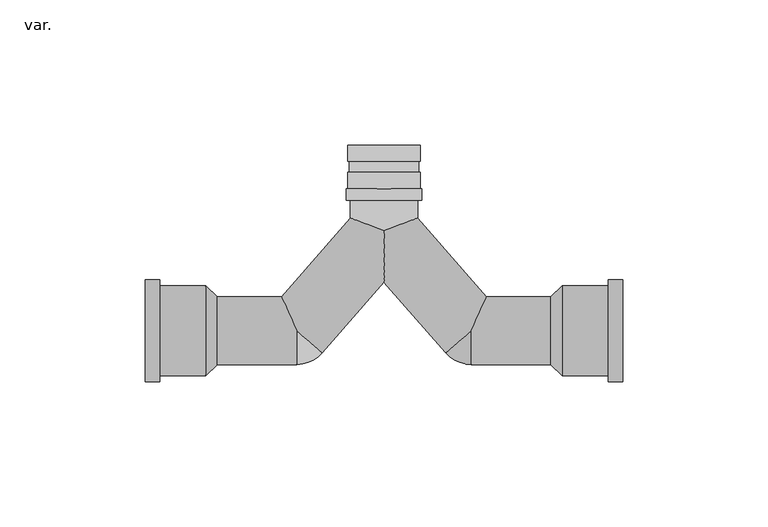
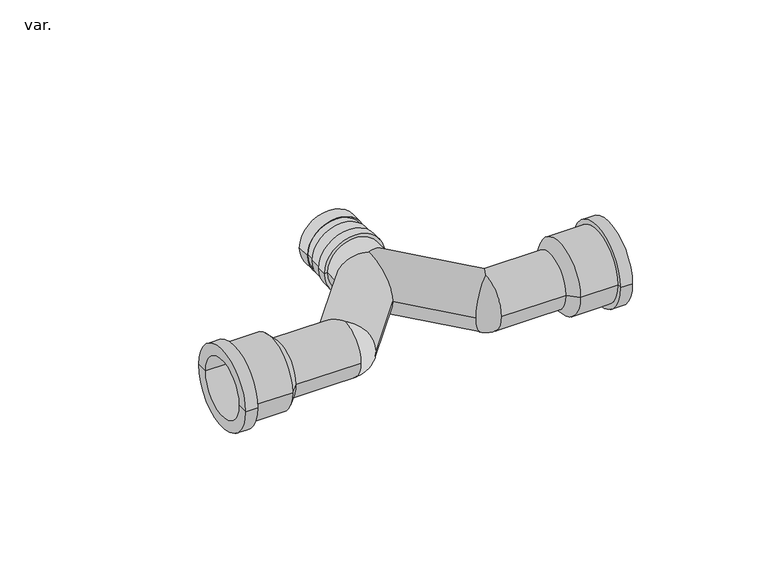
"""IFC4 building model written with IfcOpenShell, lengths in millimetres: pipe fitting geometry, AmancoWavin_ConexõesdeTubos_PEXTêMisturadorMetálico : var.."""

from ifc_helpers import new_model, si_unit, point, frame, origin, place, context, project, spatial, polyline, circle_curve, ellipse_curve, trimmed, source, transform, mapped, element, save
from ifc_brep_helpers import plane_surface, cylinder_surface, revolved_surface, advanced_brep


def var_4e1bb249(model_context):
    return source(origin(), model_context, "Body", "AdvancedBrep", [
        advanced_brep(
        [(12.5, 49.0, 0.0), (-12.5, 49.0, 0.0), (-12.5, 54.625, 0.0), (12.5, 54.625, 0.0), (10.175, 49.0, 0.0), (-10.175, 49.0, 0.0), (10.175, 64.0, 0.0), (-10.175, 64.0, 0.0), (12.5, 64.0, 0.0), (-12.5, 64.0, 0.0), (12.5, 58.375, 0.0), (-12.5, 58.375, 0.0), (-12.0, 54.625, 0.0), (12.0, 54.625, 0.0), (-12.0, 58.375, 0.0), (12.0, 58.375, 0.0)],
        [
            (0, 1, circle_curve(frame((0.0, 49.0, 0.0), z_axis=(0.0, 1.0, 0.0), x_axis=(-1.0, 0.0, 0.0)), 12.5)),
            (1, 2),
            (2, 3, circle_curve(frame((0.0, 54.625, 0.0), z_axis=(0.0, -1.0, 0.0), x_axis=(-1.0, 0.0, 0.0)), 12.5)),
            (3, 0),
            (1, 0, circle_curve(frame((0.0, 49.0, 0.0), z_axis=(0.0, 1.0, 0.0), x_axis=(-1.0, 0.0, 0.0)), 12.5)),
            (3, 2, circle_curve(frame((0.0, 54.625, 0.0), z_axis=(0.0, -1.0, 0.0), x_axis=(-1.0, 0.0, 0.0)), 12.5)),
            (0, 4),
            (4, 5, circle_curve(frame((0.0, 49.0, 0.0), z_axis=(0.0, 1.0, 0.0), x_axis=(-1.0, 0.0, 0.0)), 10.175)),
            (5, 1),
            (5, 4, circle_curve(frame((0.0, 49.0, 0.0), z_axis=(0.0, 1.0, 0.0), x_axis=(-1.0, 0.0, 0.0)), 10.175)),
            (4, 6),
            (6, 7, circle_curve(frame((0.0, 64.0, 0.0), z_axis=(0.0, 1.0, 0.0), x_axis=(-1.0, 0.0, 0.0)), 10.175)),
            (7, 5),
            (7, 6, circle_curve(frame((0.0, 64.0, 0.0), z_axis=(0.0, 1.0, 0.0), x_axis=(-1.0, 0.0, 0.0)), 10.175)),
            (6, 8),
            (8, 9, circle_curve(frame((0.0, 64.0, 0.0), z_axis=(0.0, 1.0, 0.0), x_axis=(-1.0, 0.0, 0.0)), 12.5)),
            (9, 7),
            (9, 8, circle_curve(frame((0.0, 64.0, 0.0), z_axis=(0.0, 1.0, 0.0), x_axis=(-1.0, 0.0, 0.0)), 12.5)),
            (8, 10),
            (10, 11, circle_curve(frame((0.0, 58.375, 0.0), z_axis=(0.0, 1.0, 0.0), x_axis=(-1.0, 0.0, 0.0)), 12.5)),
            (11, 9),
            (11, 10, circle_curve(frame((0.0, 58.375, 0.0), z_axis=(0.0, 1.0, 0.0), x_axis=(-1.0, 0.0, 0.0)), 12.5)),
            (12, 13, circle_curve(frame((0.0, 54.625, 0.0), z_axis=(0.0, -1.0, 0.0), x_axis=(-1.0, 0.0, 0.0)), 12.0)),
            (13, 3),
            (2, 12),
            (13, 12, circle_curve(frame((0.0, 54.625, 0.0), z_axis=(0.0, -1.0, 0.0), x_axis=(-1.0, 0.0, 0.0)), 12.0)),
            (12, 14),
            (14, 15, circle_curve(frame((0.0, 58.375, 0.0), z_axis=(0.0, -1.0, 0.0), x_axis=(-1.0, 0.0, 0.0)), 12.0)),
            (15, 13),
            (15, 14, circle_curve(frame((0.0, 58.375, 0.0), z_axis=(0.0, -1.0, 0.0), x_axis=(-1.0, 0.0, 0.0)), 12.0)),
            (14, 11),
            (10, 15),
        ],
        [
            cylinder_surface(frame((0.0, -1945.1007619, 0.0), z_axis=(0.0, -1.0, 0.0), x_axis=(-1.0, 0.0, 0.0)), 12.5),
            plane_surface(frame((0.0, 49.0, 0.0), z_axis=(0.0, -1.0, 0.0), x_axis=(-1.0, 0.0, 0.0))),
            revolved_surface(polyline([(-10.175, 49.0, 0.0), (-10.175, 64.0, 0.0)]), (0.0, -1945.1007619, 0.0), (0.0, -1.0, 0.0)),
            plane_surface(frame((0.0, 64.0, 0.0), z_axis=(0.0, 1.0, 0.0), x_axis=(-1.0, 0.0, 0.0))),
            plane_surface(frame((0.0, 54.625, 0.0), z_axis=(0.0, 1.0, 0.0), x_axis=(-1.0, 0.0, 0.0))),
            cylinder_surface(frame((0.0, -1945.1007619, 0.0), z_axis=(0.0, -1.0, 0.0), x_axis=(-1.0, 0.0, 0.0)), 12.0),
            plane_surface(frame((0.0, 58.375, 0.0), z_axis=(0.0, -1.0, 0.0), x_axis=(-1.0, 0.0, 0.0))),
        ],
        [
            (0, [[1, 2, 3, 4]]),
            (0, [[5, -4, 6, -2]]),
            (1, [[-1, 7, 8, 9]]),
            (1, [[-5, -9, 10, -7]]),
            (2, [[-8, 11, 12, 13]]),
            (2, [[-10, -13, 14, -11]]),
            (3, [[-12, 15, 16, 17]]),
            (3, [[-14, -17, 18, -15]]),
            (0, [[-16, 19, 20, 21]]),
            (0, [[-18, -21, 22, -19]]),
            (4, [[23, 24, -3, 25]]),
            (4, [[26, -25, -6, -24]]),
            (5, [[-23, 27, 28, 29]]),
            (5, [[-26, -29, 30, -27]]),
            (6, [[-28, 31, -20, 32]]),
            (6, [[-30, -32, -22, -31]]),
        ],
    ),
        advanced_brep(
        [(-77.35, -15.5, 0.0), (-77.35, 15.5, 0.0), (-61.35, 15.5, 0.0), (-61.35, -15.5, 0.0), (-77.35, -17.5, 0.0), (-77.35, 17.5, 0.0), (-82.35, -17.5, 0.0), (-82.35, 17.5, 0.0), (-82.35, -12.7, 0.0), (-82.35, 12.7, 0.0), (-63.35, -12.7, 0.0), (-63.35, 12.7, 0.0), (-63.35, 0.0, 0.0), (-57.5, -11.65, 0.0), (-57.5, 11.65, 0.0), (-35.3092109, 11.65, 0.0), (-30.0, 0.0, -11.65), (-30.0, -11.65, 0.0), (-30.0, 0.0, 11.65), (57.5, -11.65, 0.0), (57.5, 11.65, 0.0), (61.35, 15.5, 0.0), (61.35, -15.5, 0.0), (30.0, -11.65, 0.0), (30.0, -10.0224566, -5.9390962), (30.0, -5.8559233, -10.0712791), (30.0, 0.0, -11.65), (35.3092109, 11.65, 0.0), (30.0, 0.0, 11.65), (30.0, -5.8559233, 10.0712791), (30.0, -10.0224566, 5.9390962), (63.35, -12.7, 0.0), (63.35, 12.7, 0.0), (63.35, 0.0, 0.0), (82.35, -12.7, 0.0), (82.35, 12.7, 0.0), (82.35, -17.5, 0.0), (82.35, 17.5, 0.0), (77.35, -17.5, 0.0), (77.35, 17.5, 0.0), (77.35, -15.5, 0.0), (77.35, 15.5, 0.0), (-11.65, 38.8668087, 0.0), (0.0, 34.5110522, -11.65), (0.0, 16.7535038, 0.0), (-21.2076334, -7.6430877, 0.0), (-23.7828579, -5.4044791, -8.237794), (-23.7828579, -5.4044791, 8.237794), (0.0, 34.5110522, 11.65), (21.2076334, -7.6430877, 0.0), (11.65, 38.8668087, 0.0), (13.0, 45.0, 0.0), (-13.0, 45.0, 0.0), (-13.0, 49.0, 0.0), (13.0, 49.0, 0.0), (11.65, 45.0, 0.0), (-11.65, 45.0, 0.0), (0.0, 49.0, 0.0)],
        [
            (0, 1, circle_curve(frame((-77.35, 0.0, 0.0), z_axis=(1.0, 0.0, 0.0), x_axis=(0.0, 1.0, 0.0)), 15.5)),
            (1, 2),
            (2, 3, circle_curve(frame((-61.35, 0.0, 0.0), z_axis=(-1.0, 0.0, 0.0), x_axis=(0.0, 1.0, 0.0)), 15.5)),
            (3, 0),
            (1, 0, circle_curve(frame((-77.35, 0.0, 0.0), z_axis=(1.0, 0.0, 0.0), x_axis=(0.0, 1.0, 0.0)), 15.5)),
            (3, 2, circle_curve(frame((-61.35, 0.0, 0.0), z_axis=(-1.0, 0.0, 0.0), x_axis=(0.0, 1.0, 0.0)), 15.5)),
            (0, 4),
            (4, 5, circle_curve(frame((-77.35, 0.0, 0.0), z_axis=(1.0, 0.0, 0.0), x_axis=(0.0, 1.0, 0.0)), 17.5)),
            (5, 1),
            (5, 4, circle_curve(frame((-77.35, 0.0, 0.0), z_axis=(1.0, 0.0, 0.0), x_axis=(0.0, 1.0, 0.0)), 17.5)),
            (4, 6),
            (6, 7, circle_curve(frame((-82.35, 0.0, 0.0), z_axis=(1.0, 0.0, 0.0), x_axis=(0.0, 1.0, 0.0)), 17.5)),
            (7, 5),
            (7, 6, circle_curve(frame((-82.35, 0.0, 0.0), z_axis=(1.0, 0.0, 0.0), x_axis=(0.0, 1.0, 0.0)), 17.5)),
            (6, 8),
            (8, 9, circle_curve(frame((-82.35, 0.0, 0.0), z_axis=(1.0, 0.0, 0.0), x_axis=(0.0, 1.0, 0.0)), 12.7)),
            (9, 7),
            (9, 8, circle_curve(frame((-82.35, 0.0, 0.0), z_axis=(1.0, 0.0, 0.0), x_axis=(0.0, 1.0, 0.0)), 12.7)),
            (8, 10),
            (10, 11, circle_curve(frame((-63.35, 0.0, 0.0), z_axis=(1.0, 0.0, 0.0), x_axis=(0.0, 1.0, 0.0)), 12.7)),
            (11, 9),
            (11, 10, circle_curve(frame((-63.35, 0.0, 0.0), z_axis=(1.0, 0.0, 0.0), x_axis=(0.0, 1.0, 0.0)), 12.7)),
            (10, 12),
            (12, 11),
            (13, 14, circle_curve(frame((-57.5, 0.0, 0.0), z_axis=(1.0, 0.0, 0.0), x_axis=(0.0, 1.0, 0.0)), 11.65)),
            (14, 15),
            (15, 16, ellipse_curve(frame((-30.0, 0.0, 0.0), z_axis=(-0.9099612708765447, -0.4146932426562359, 0.0), x_axis=(-0.4146932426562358, 0.9099612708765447, 0.0)), 12.8027427, 11.65)),
            (16, 17, circle_curve(frame((-30.0, 0.0, 0.0), z_axis=(-1.0, 0.0, 0.0), x_axis=(0.0, 1.0, 0.0)), 11.65)),
            (17, 13),
            (17, 18, circle_curve(frame((-30.0, 0.0, 0.0), z_axis=(-1.0, 0.0, 0.0), x_axis=(0.0, 1.0, 0.0)), 11.65)),
            (18, 15, ellipse_curve(frame((-30.0, 0.0, 0.0), z_axis=(-0.9099612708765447, -0.4146932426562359, 0.0), x_axis=(-0.4146932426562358, 0.9099612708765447, 0.0)), 12.8027427, 11.65)),
            (14, 13, circle_curve(frame((-57.5, 0.0, 0.0), z_axis=(1.0, 0.0, 0.0), x_axis=(0.0, 1.0, 0.0)), 11.65)),
            (2, 14),
            (13, 3),
            (19, 20, circle_curve(frame((57.5, 0.0, 0.0), z_axis=(1.0, 0.0, 0.0), x_axis=(0.0, 1.0, 0.0)), 11.65)),
            (20, 21),
            (21, 22, circle_curve(frame((61.35, 0.0, 0.0), z_axis=(-1.0, 0.0, 0.0), x_axis=(0.0, 1.0, 0.0)), 15.5)),
            (22, 19),
            (20, 19, circle_curve(frame((57.5, 0.0, 0.0), z_axis=(1.0, 0.0, 0.0), x_axis=(0.0, 1.0, 0.0)), 11.65)),
            (22, 21, circle_curve(frame((61.35, 0.0, 0.0), z_axis=(-1.0, 0.0, 0.0), x_axis=(0.0, 1.0, 0.0)), 15.5)),
            (19, 23),
            (23, 24, circle_curve(frame((30.0, 0.0, 0.0), z_axis=(1.0, 0.0, 0.0), x_axis=(0.0, 1.0, 0.0)), 11.65)),
            (24, 25, circle_curve(frame((30.0, 0.0, 0.0), z_axis=(1.0, 0.0, 0.0), x_axis=(0.0, 1.0, 0.0)), 11.65)),
            (25, 26, circle_curve(frame((30.0, 0.0, 0.0), z_axis=(1.0, 0.0, 0.0), x_axis=(0.0, 1.0, 0.0)), 11.65)),
            (26, 27, ellipse_curve(frame((30.0, 0.0, 0.0), z_axis=(0.9099612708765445, -0.4146932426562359, 0.0), x_axis=(-0.41469324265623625, -0.9099612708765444, 0.0)), 12.8027427, 11.65)),
            (27, 20),
            (27, 28, ellipse_curve(frame((30.0, 0.0, 0.0), z_axis=(0.9099612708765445, -0.4146932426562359, 0.0), x_axis=(-0.41469324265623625, -0.9099612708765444, 0.0)), 12.8027427, 11.65)),
            (28, 29, circle_curve(frame((30.0, 0.0, 0.0), z_axis=(1.0, 0.0, 0.0), x_axis=(0.0, 1.0, 0.0)), 11.65)),
            (29, 30, circle_curve(frame((30.0, 0.0, 0.0), z_axis=(1.0, 0.0, 0.0), x_axis=(0.0, 1.0, 0.0)), 11.65)),
            (30, 23, circle_curve(frame((30.0, 0.0, 0.0), z_axis=(1.0, 0.0, 0.0), x_axis=(0.0, 1.0, 0.0)), 11.65)),
            (31, 32, circle_curve(frame((63.35, 0.0, 0.0), z_axis=(1.0, 0.0, 0.0), x_axis=(0.0, 1.0, 0.0)), 12.7)),
            (32, 33),
            (33, 31),
            (32, 31, circle_curve(frame((63.35, 0.0, 0.0), z_axis=(1.0, 0.0, 0.0), x_axis=(0.0, 1.0, 0.0)), 12.7)),
            (31, 34),
            (34, 35, circle_curve(frame((82.35, 0.0, 0.0), z_axis=(1.0, 0.0, 0.0), x_axis=(0.0, 1.0, 0.0)), 12.7)),
            (35, 32),
            (35, 34, circle_curve(frame((82.35, 0.0, 0.0), z_axis=(1.0, 0.0, 0.0), x_axis=(0.0, 1.0, 0.0)), 12.7)),
            (34, 36),
            (36, 37, circle_curve(frame((82.35, 0.0, 0.0), z_axis=(1.0, 0.0, 0.0), x_axis=(0.0, 1.0, 0.0)), 17.5)),
            (37, 35),
            (37, 36, circle_curve(frame((82.35, 0.0, 0.0), z_axis=(1.0, 0.0, 0.0), x_axis=(0.0, 1.0, 0.0)), 17.5)),
            (36, 38),
            (38, 39, circle_curve(frame((77.35, 0.0, 0.0), z_axis=(1.0, 0.0, 0.0), x_axis=(0.0, 1.0, 0.0)), 17.5)),
            (39, 37),
            (39, 38, circle_curve(frame((77.35, 0.0, 0.0), z_axis=(1.0, 0.0, 0.0), x_axis=(0.0, 1.0, 0.0)), 17.5)),
            (38, 40),
            (40, 41, circle_curve(frame((77.35, 0.0, 0.0), z_axis=(1.0, 0.0, 0.0), x_axis=(0.0, 1.0, 0.0)), 15.5)),
            (41, 39),
            (41, 40, circle_curve(frame((77.35, 0.0, 0.0), z_axis=(1.0, 0.0, 0.0), x_axis=(0.0, 1.0, 0.0)), 15.5)),
            (21, 41),
            (40, 22),
            (15, 42),
            (42, 43, ellipse_curve(frame((0.0, 34.5110522, 0.0), z_axis=(-0.3502073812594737, -0.9366721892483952, 0.0), x_axis=(-0.9366721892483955, 0.35020738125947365, 0.0)), 12.4376491, 11.65)),
            (43, 44, ellipse_curve(frame((0.0, 34.5110522, 0.0), z_axis=(-1.0, 0.0, 0.0), x_axis=(0.0, -1.0, 0.0)), 17.7575485, 11.65)),
            (44, 45),
            (45, 46, circle_curve(frame((-30.0, 0.0, 0.0), z_axis=(0.6560590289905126, 0.7547095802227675, 0.0), x_axis=(-0.7547095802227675, 0.6560590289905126, 0.0)), 11.65)),
            (46, 16, circle_curve(frame((-30.0, 0.0, 0.0), z_axis=(0.6560590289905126, 0.7547095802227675, 0.0), x_axis=(-0.7547095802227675, 0.6560590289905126, 0.0)), 11.65)),
            (18, 47, circle_curve(frame((-30.0, 0.0, 0.0), z_axis=(0.6560590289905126, 0.7547095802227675, 0.0), x_axis=(-0.7547095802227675, 0.6560590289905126, 0.0)), 11.65)),
            (47, 45, circle_curve(frame((-30.0, 0.0, 0.0), z_axis=(0.6560590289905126, 0.7547095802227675, 0.0), x_axis=(-0.7547095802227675, 0.6560590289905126, 0.0)), 11.65)),
            (44, 48, ellipse_curve(frame((0.0, 34.5110522, 0.0), z_axis=(-1.0, 0.0, 0.0), x_axis=(0.0, -1.0, 0.0)), 17.7575485, 11.65)),
            (48, 42, ellipse_curve(frame((0.0, 34.5110522, 0.0), z_axis=(-0.3502073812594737, -0.9366721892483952, 0.0), x_axis=(-0.9366721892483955, 0.35020738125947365, 0.0)), 12.4376491, 11.65)),
            (49, 44),
            (43, 50, ellipse_curve(frame((0.0, 34.5110522, 0.0), z_axis=(0.35020738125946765, -0.9366721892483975, 0.0), x_axis=(-0.9366721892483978, -0.35020738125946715, 0.0)), 12.4376491, 11.65)),
            (50, 27),
            (26, 49, circle_curve(frame((30.0, 0.0, 0.0), z_axis=(-0.6560590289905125, 0.7547095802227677, 0.0), x_axis=(0.7547095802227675, 0.6560590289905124, 0.0)), 11.65)),
            (49, 28, circle_curve(frame((30.0, 0.0, 0.0), z_axis=(-0.6560590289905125, 0.7547095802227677, 0.0), x_axis=(0.7547095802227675, 0.6560590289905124, 0.0)), 11.65)),
            (50, 48, ellipse_curve(frame((0.0, 34.5110522, 0.0), z_axis=(0.35020738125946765, -0.9366721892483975, 0.0), x_axis=(-0.9366721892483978, -0.35020738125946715, 0.0)), 12.4376491, 11.65)),
            (51, 52, circle_curve(frame((0.0, 45.0, 0.0), z_axis=(0.0, 1.0, 0.0), x_axis=(-1.0, 0.0, 0.0)), 13.0)),
            (52, 53),
            (53, 54, circle_curve(frame((0.0, 49.0, 0.0), z_axis=(0.0, -1.0, 0.0), x_axis=(-1.0, 0.0, 0.0)), 13.0)),
            (54, 51),
            (52, 51, circle_curve(frame((0.0, 45.0, 0.0), z_axis=(0.0, 1.0, 0.0), x_axis=(-1.0, 0.0, 0.0)), 13.0)),
            (54, 53, circle_curve(frame((0.0, 49.0, 0.0), z_axis=(0.0, -1.0, 0.0), x_axis=(-1.0, 0.0, 0.0)), 13.0)),
            (51, 55),
            (55, 56, circle_curve(frame((0.0, 45.0, 0.0), z_axis=(0.0, 1.0, 0.0), x_axis=(-1.0, 0.0, 0.0)), 11.65)),
            (56, 52),
            (56, 55, circle_curve(frame((0.0, 45.0, 0.0), z_axis=(0.0, 1.0, 0.0), x_axis=(-1.0, 0.0, 0.0)), 11.65)),
            (55, 50),
            (42, 56),
            (53, 57),
            (57, 54),
        ],
        [
            cylinder_surface(frame((-2001.7466803, 0.0, 0.0), z_axis=(-1.0, 0.0, 0.0), x_axis=(0.0, 1.0, 0.0)), 15.5),
            plane_surface(frame((-77.35, 0.0, 0.0), z_axis=(1.0, 0.0, 0.0), x_axis=(0.0, 1.0, 0.0))),
            cylinder_surface(frame((-2001.7466803, 0.0, 0.0), z_axis=(-1.0, 0.0, 0.0), x_axis=(0.0, 1.0, 0.0)), 17.5),
            plane_surface(frame((-82.35, 0.0, 0.0), z_axis=(-1.0, 0.0, 0.0), x_axis=(0.0, 1.0, 0.0))),
            revolved_surface(polyline([(-82.34999999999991, 12.7, 0.0), (-63.34999999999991, 12.7, 0.0)]), (-2001.7466803, 0.0, 0.0), (-1.0, 0.0, 0.0)),
            plane_surface(frame((-63.35, 0.0, 0.0), z_axis=(-1.0, 0.0, 0.0), x_axis=(0.0, 1.0, 0.0))),
            cylinder_surface(frame((-2001.7466803, 0.0, 0.0), z_axis=(-1.0, 0.0, 0.0), x_axis=(0.0, 1.0, 0.0)), 11.65),
            revolved_surface(polyline([(-57.5, 11.65, 0.0), (-61.35, 15.5, 0.0)]), (-2001.7466803, 0.0, 0.0), (-1.0, 0.0, 0.0)),
            revolved_surface(polyline([(61.35, 15.5, 0.0), (57.5, 11.65, 0.0)]), (-2001.7466803, 0.0, 0.0), (-1.0, 0.0, 0.0)),
            plane_surface(frame((63.35, 0.0, 0.0), z_axis=(1.0, 0.0, 0.0), x_axis=(0.0, 1.0, 0.0))),
            revolved_surface(polyline([(63.350000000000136, 12.7, 0.0), (82.35000000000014, 12.7, 0.0)]), (-2001.7466803, 0.0, 0.0), (-1.0, 0.0, 0.0)),
            plane_surface(frame((82.35, 0.0, 0.0), z_axis=(1.0, 0.0, 0.0), x_axis=(0.0, 1.0, 0.0))),
            plane_surface(frame((77.35, 0.0, 0.0), z_axis=(-1.0, 0.0, 0.0), x_axis=(0.0, 1.0, 0.0))),
            cylinder_surface(frame((-30.0, 0.0, 0.0), z_axis=(-0.6560590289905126, -0.7547095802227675, 0.0), x_axis=(-0.7547095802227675, 0.6560590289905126, 0.0)), 11.65),
            cylinder_surface(frame((30.0, 0.0, 0.0), z_axis=(-0.6560590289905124, 0.7547095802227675, 0.0), x_axis=(0.7547095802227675, 0.6560590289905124, 0.0)), 11.65),
            revolved_surface(trimmed(ellipse_curve(frame((-30.0, 0.0, 0.0), z_axis=(0.6560590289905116, 0.7547095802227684, 0.0), x_axis=(-0.7547095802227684, 0.6560590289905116, 0.0)), 11.65, 11.65), [point((-30.0, 0.0, 11.65))], [point((-30.0, 0.0, -11.65))], True, "CARTESIAN"), (-30.0, 0.0, -307.45), (0.0, 0.0, -1.0)),
            revolved_surface(trimmed(ellipse_curve(frame((30.0, 0.0, 0.0), z_axis=(-0.6560590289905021, 0.7547095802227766, 0.0), x_axis=(-0.7547095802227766, -0.6560590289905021, 0.0)), 11.65, 11.65), [point((30.0, 0.0, -11.65))], [point((30.0, 0.0, 11.65))], True, "CARTESIAN"), (30.0, 0.0, -307.45), (0.0, 0.0, 1.0)),
            cylinder_surface(frame((0.0, -2000.0, 0.0), z_axis=(0.0, -1.0, 0.0), x_axis=(-1.0, 0.0, 0.0)), 13.0),
            plane_surface(frame((0.0, 45.0, 0.0), z_axis=(0.0, -1.0, 0.0), x_axis=(-1.0, 0.0, 0.0))),
            cylinder_surface(frame((0.0, -2000.0, 0.0), z_axis=(0.0, -1.0, 0.0), x_axis=(-1.0, 0.0, 0.0)), 11.65),
            plane_surface(frame((0.0, 49.0, 0.0), z_axis=(0.0, 1.0, 0.0), x_axis=(-1.0, 0.0, 0.0))),
        ],
        [
            (0, [[1, 2, 3, 4]]),
            (0, [[-2, 5, -4, 6]]),
            (1, [[-1, 7, 8, 9]]),
            (1, [[-5, -9, 10, -7]]),
            (2, [[-8, 11, 12, 13]]),
            (2, [[-10, -13, 14, -11]]),
            (3, [[-12, 15, 16, 17]]),
            (3, [[-14, -17, 18, -15]]),
            (4, [[-16, 19, 20, 21]]),
            (4, [[-18, -21, 22, -19]]),
            (5, [[-20, 23, 24]]),
            (5, [[-22, -24, -23]]),
            (6, [[25, 26, 27, 28, 29]]),
            (6, [[-29, 30, 31, -26, 32]]),
            (7, [[-3, 33, -25, 34]]),
            (7, [[-6, -34, -32, -33]]),
            (8, [[35, 36, 37, 38]]),
            (8, [[-36, 39, -38, 40]]),
            (6, [[-35, 41, 42, 43, 44, 45, 46]]),
            (6, [[-39, -46, 47, 48, 49, 50, -41]]),
            (9, [[51, 52, 53]]),
            (9, [[-52, 54, -53]]),
            (10, [[-51, 55, 56, 57]]),
            (10, [[-54, -57, 58, -55]]),
            (11, [[-56, 59, 60, 61]]),
            (11, [[-58, -61, 62, -59]]),
            (2, [[-60, 63, 64, 65]]),
            (2, [[-62, -65, 66, -63]]),
            (12, [[-64, 67, 68, 69]]),
            (12, [[-66, -69, 70, -67]]),
            (0, [[-37, 71, -68, 72]]),
            (0, [[-40, -72, -70, -71]]),
            (13, [[-27, 73, 74, 75, 76, 77, 78]]),
            (13, [[-31, 79, 80, -76, 81, 82, -73]]),
            (14, [[83, -75, 84, 85, -45, 86]]),
            (14, [[-83, 87, -47, -85, 88, -81]]),
            (15, [[-28, -78, -77, -80, -79, -30]]),
            (16, [[-42, -50, -49, -48, -87, -86, -44, -43]]),
            (17, [[89, 90, 91, 92]]),
            (17, [[-90, 93, -92, 94]]),
            (18, [[-89, 95, 96, 97]]),
            (18, [[-93, -97, 98, -95]]),
            (19, [[-96, 99, -84, -74, 100]]),
            (19, [[-98, -100, -82, -88, -99]]),
            (20, [[-91, 101, 102]]),
            (20, [[-94, -102, -101]]),
        ],
    ),
    ])


if __name__ == "__main__":
    model = new_model("IFC4")
    model_context = context("Model", 3, world=origin())
    ifc_project = project(units=[si_unit("LENGTHUNIT", "METRE", prefix="MILLI")], contexts=[model_context])
    site = spatial("IfcSite", under=ifc_project)
    building = spatial("IfcBuilding", under=site)
    placement = place(None, origin())
    var_shape = var_4e1bb249(model_context)
    element("IfcPipeFitting", 1, ObjectType="AmancoWavin_ConexõesdeTubos_PEXTêMisturadorMetálico : var.", at=placement, inside=building, context=model_context, shape_type="MappedRepresentation", body=[
        mapped(var_shape, transform((0.0, 0.0, 0.0), x_axis=(1.0, 0.0, 0.0), y_axis=(0.0, 1.0, 0.0), z_axis=(0.0, 0.0, 1.0))),
    ])
    save(model, "model.ifc")
